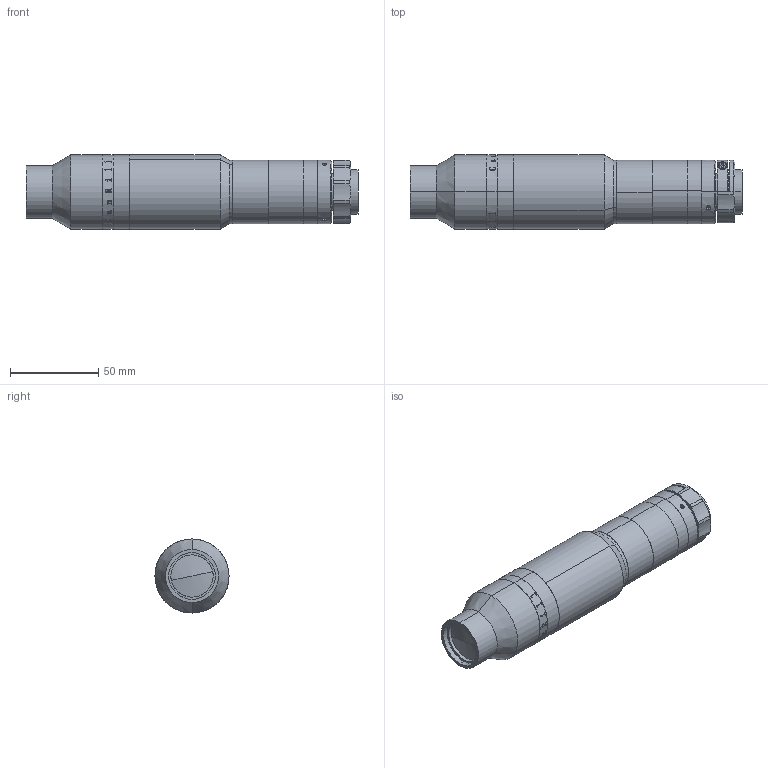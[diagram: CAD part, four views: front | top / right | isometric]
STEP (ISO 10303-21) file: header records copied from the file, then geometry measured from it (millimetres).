
FILE_DESCRIPTION (( 'STEP AP203' ), '1' );
FILE_NAME ('XF-MH045X326.STEP', '2020-04-13T10:21:11', ( 'canrill-02' ), ( '' ), 'SwSTEP 2.0', 'SolidWorks 2014', '' );
FILE_SCHEMA (( 'CONFIG_CONTROL_DESIGN' ));
Length unit declared in the file: millimetre
Products named in the file (1): XF-MH045X326
Bounding box: 188.35 x 42 x 42 mm (x, y, z)
Surface area: 29861.8 mm2 (no closed solid volume)
Topology: 0 solids, 27 shells, 150 faces, 886 edges, 763 vertices
Faces by surface type: cylinder 73, plane 50, cone 17, bspline 6, sphere 2, torus 2
Entity records: 15283 total; most frequent: CARTESIAN_POINT 8915, DIRECTION 1186, ORIENTED_EDGE 1124, EDGE_CURVE 884, VERTEX_POINT 763, AXIS2_PLACEMENT_3D 462, CIRCLE 317, B_SPLINE_CURVE_WITH_KNOTS 305
